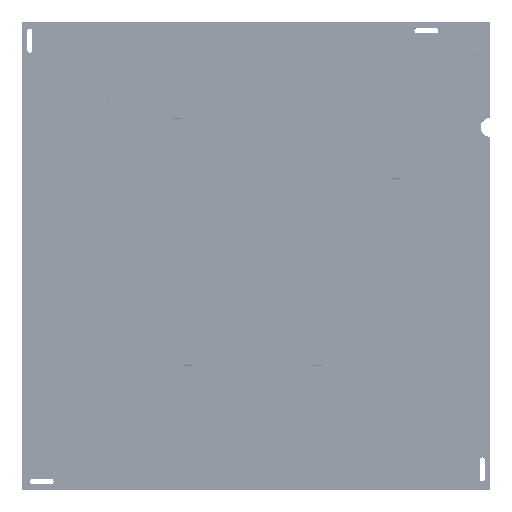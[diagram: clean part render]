
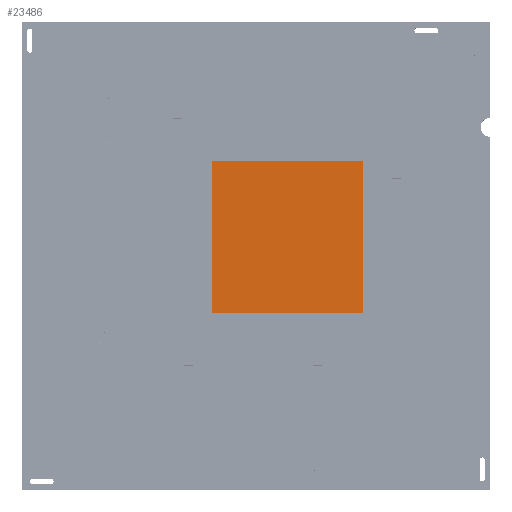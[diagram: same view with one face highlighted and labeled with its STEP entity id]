
A CAD part, top view. The second image highlights one B-rep face of the part: STEP entity #23486.
In plain terms, the highlighted planar face has unit normal (0, 0, 1).
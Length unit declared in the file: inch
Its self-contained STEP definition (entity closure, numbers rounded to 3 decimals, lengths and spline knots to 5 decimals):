
#5170 = LINE ( 'NONE', #16823, #41296 ) ;
#6755 = DIRECTION ( 'NONE',  ( 0., 0., -1. ) ) ;
#7553 = CARTESIAN_POINT ( 'NONE',  ( -0.3189, -0.3189, 0.01772 ) ) ;
#16823 = CARTESIAN_POINT ( 'NONE',  ( -0.3189, 0.3189, 0.01772 ) ) ;
#23486 = ADVANCED_FACE ( 'NONE', ( #196319 ), #159581, .F. ) ;
#25510 = ORIENTED_EDGE ( 'NONE', *, *, #169190, .T. ) ;
#26208 = CARTESIAN_POINT ( 'NONE',  ( -0.3189, 0.3189, 0.01772 ) ) ;
#29226 = CARTESIAN_POINT ( 'NONE',  ( 0.3189, 0.3189, 0.01772 ) ) ;
#31519 = EDGE_CURVE ( 'NONE', #91103, #83526, #152281, .T. ) ;
#31668 = CARTESIAN_POINT ( 'NONE',  ( 0.3189, 0.3189, 0.01772 ) ) ;
#33566 = EDGE_LOOP ( 'NONE', ( #42079, #25510, #76801, #80639 ) ) ;
#34226 = VECTOR ( 'NONE', #89878, 39.37008 ) ;
#41296 = VECTOR ( 'NONE', #63341, 39.37008 ) ;
#42079 = ORIENTED_EDGE ( 'NONE', *, *, #122432, .T. ) ;
#42609 = CARTESIAN_POINT ( 'NONE',  ( 0.3189, -0.3189, 0.01772 ) ) ;
#47360 = VERTEX_POINT ( 'NONE', #78027 ) ;
#55015 = AXIS2_PLACEMENT_3D ( 'NONE', #98959, #6755, #114513 ) ;
#63341 = DIRECTION ( 'NONE',  ( 0., -1., 0. ) ) ;
#70620 = LINE ( 'NONE', #7553, #188609 ) ;
#76801 = ORIENTED_EDGE ( 'NONE', *, *, #31519, .T. ) ;
#78027 = CARTESIAN_POINT ( 'NONE',  ( -0.3189, -0.3189, 0.01772 ) ) ;
#80639 = ORIENTED_EDGE ( 'NONE', *, *, #190636, .T. ) ;
#83526 = VERTEX_POINT ( 'NONE', #29226 ) ;
#89878 = DIRECTION ( 'NONE',  ( 0., 1., 0. ) ) ;
#91103 = VERTEX_POINT ( 'NONE', #42609 ) ;
#98959 = CARTESIAN_POINT ( 'NONE',  ( 0.3189, 0.3189, 0.01772 ) ) ;
#109094 = DIRECTION ( 'NONE',  ( -1., 0., 0. ) ) ;
#114513 = DIRECTION ( 'NONE',  ( -1., 0., 0. ) ) ;
#122432 = EDGE_CURVE ( 'NONE', #160593, #47360, #5170, .T. ) ;
#128087 = VECTOR ( 'NONE', #109094, 39.37008 ) ;
#130797 = DIRECTION ( 'NONE',  ( 1., 0., 0. ) ) ;
#152281 = LINE ( 'NONE', #198230, #34226 ) ;
#159581 = PLANE ( 'NONE',  #55015 ) ;
#160593 = VERTEX_POINT ( 'NONE', #26208 ) ;
#168939 = LINE ( 'NONE', #31668, #128087 ) ;
#169190 = EDGE_CURVE ( 'NONE', #47360, #91103, #70620, .T. ) ;
#188609 = VECTOR ( 'NONE', #130797, 39.37008 ) ;
#190636 = EDGE_CURVE ( 'NONE', #83526, #160593, #168939, .T. ) ;
#196319 = FACE_OUTER_BOUND ( 'NONE', #33566, .T. ) ;
#198230 = CARTESIAN_POINT ( 'NONE',  ( 0.3189, -0.3189, 0.01772 ) ) ;
